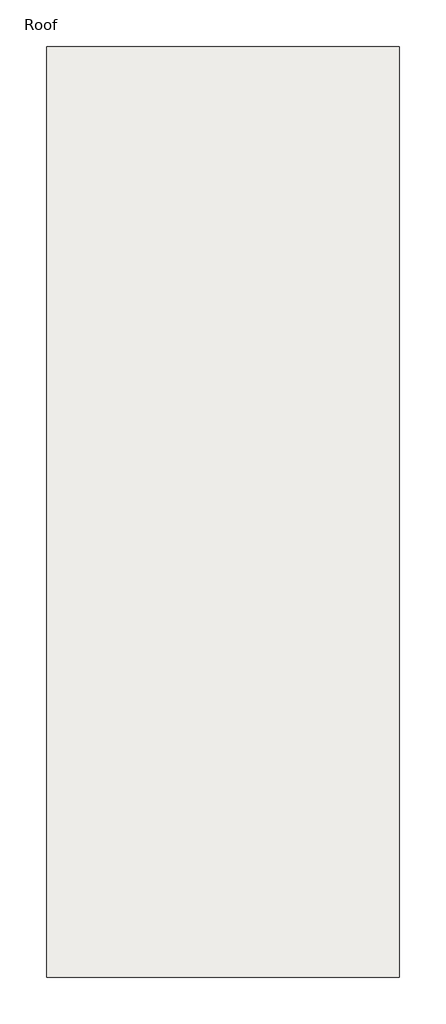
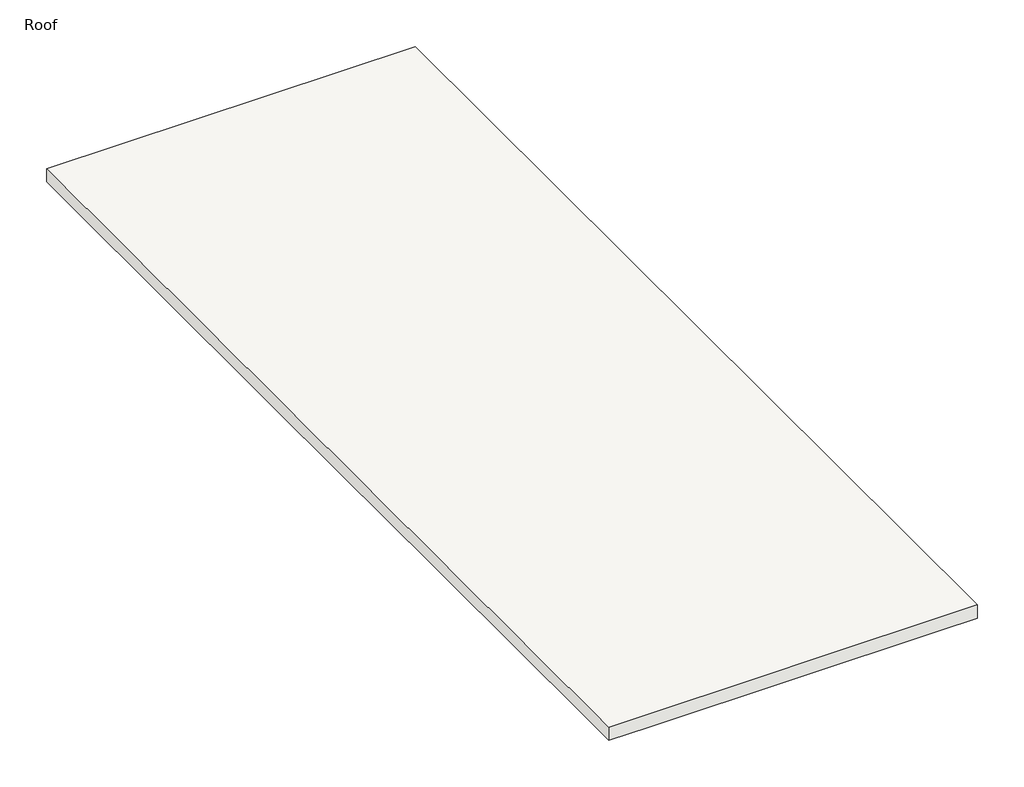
# One storey: 1 slab.
"""IFC4 building model written with IfcOpenShell, lengths in millimetres."""

from ifc_helpers import new_model, si_unit, origin, place, context, project, spatial, faceted_brep, element, save

model = new_model("IFC4")

# Units and contexts
model_context = context("Model", 3, world=origin())
ifc_project = project(units=[si_unit("LENGTHUNIT", "METRE", prefix="MILLI")], contexts=[model_context])

# Site, building, storey
site = spatial("IfcSite", under=ifc_project)
building = spatial("IfcBuilding", under=site)
storey = spatial("IfcBuildingStorey", under=building, Name="Roof", Elevation=7315.0)

# Slab
placement = place(None, origin())
element("IfcSlab", 1, ObjectType="160mm Concrete With 50mm Metal Deck", at=placement, inside=storey, context=model_context, shape_type="Brep", body=[
    faceted_brep([(-16304.9035319, 4562.1636035, 7225.0), (-16304.9035319, 3962.1636035, 7225.0), (-16304.9035319, -3362.8363965, 7225.0), (-16304.9035319, -3962.8363965, 7225.0), (-16304.9035319, -9458.8363965, 7225.0), (-16304.9035319, -10058.8363965, 7225.0), (-16904.9035319, -10058.8363965, 7225.0), (-21244.300634, -10058.8363965, 7225.0), (-21844.300634, -10058.8363965, 7225.0), (-21844.300634, -9458.8363965, 7225.0), (-21844.300634, -3962.8363965, 7225.0), (-21844.300634, -3362.8363965, 7225.0), (-21844.300634, 3962.1636035, 7225.0), (-21844.300634, 4562.1636035, 7225.0), (-21244.300634, 4562.1636035, 7225.0), (-16904.9035319, 4562.1636035, 7225.0), (-16304.9035319, 4562.1636035, 7435.0), (-21844.300634, 4562.1636035, 7435.0), (-21844.300634, -10058.8363965, 7435.0), (-16304.9035319, -10058.8363965, 7435.0)], [[[0, 1, 2, 3, 4, 5, 6, 7, 8, 9, 10, 11, 12, 13, 14, 15]], [[16, 17, 18, 19]], [[5, 4, 3, 2, 1, 0, 16, 19]], [[8, 7, 6, 5, 19, 18]], [[13, 12, 11, 10, 9, 8, 18, 17]], [[0, 15, 14, 13, 17, 16]]]),
])

save(model, "model.ifc")
